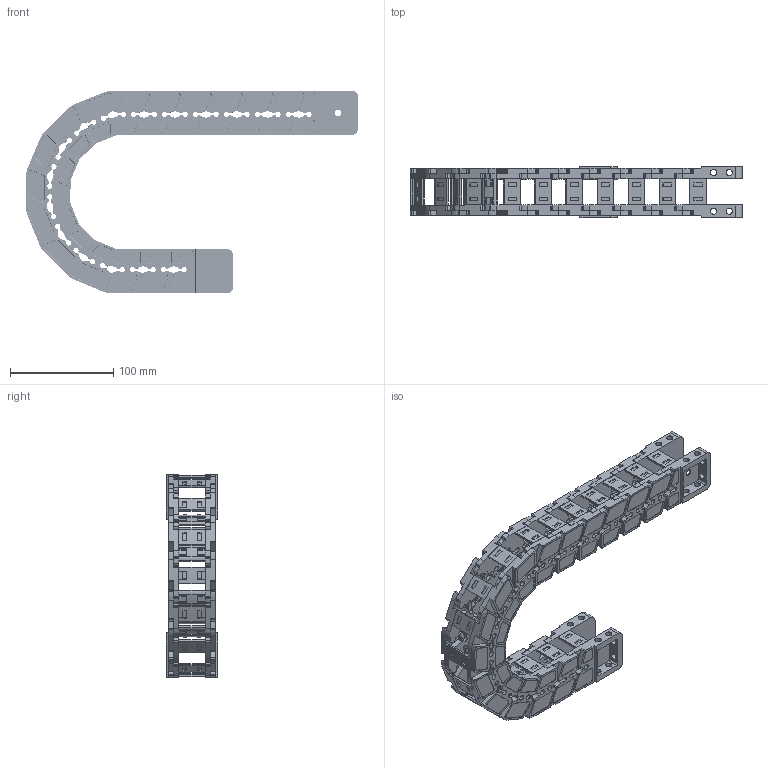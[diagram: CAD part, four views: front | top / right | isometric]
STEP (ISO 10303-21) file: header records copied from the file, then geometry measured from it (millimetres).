
FILE_DESCRIPTION((''),'2;1');
FILE_NAME('JY-35X25-R75_ASM','2025-01-05T18:57:45',('admin'),(''),'CREO PARAMETRIC BY PTC INC, 2021023','CREO PARAMETRIC BY PTC INC, 2021023','');
FILE_SCHEMA(('CONFIG_CONTROL_DESIGN'));
Length unit declared in the file: millimetre
Products named in the file (11): 35XL-L; YP; 35XL-R; ASM0001_ASM; 35-LTT-A-L; 35-LTT-A-R; 35XL-LTT-A_ASM; 35-LTT-B-L; 35-LTT-B-R; 35XL-LTT-B_ASM; JY-35X25-R75_ASM
Assembly tree (29 placements, depth 3):
  JY-35X25-R75_ASM
    ASM0001_ASM  x15
      35XL-L
      YP
      35XL-R
    35XL-LTT-A_ASM
      35-LTT-A-L
      YP  x2
      35-LTT-A-R
    35XL-LTT-B_ASM
      35-LTT-B-L
      YP  x2
      35-LTT-B-R
Bounding box: 321.72 x 49.5 x 196.34 mm (x, y, z)
Volume: 412050.6 mm3; surface area: 238800.9 mm2
Topology: 68 solids, 68 shells, 5536 faces, 16584 edges, 11192 vertices
Faces by surface type: plane 3130, cylinder 1830, cone 352, extrusion 128, bspline 96
Entity records: 27842 total; most frequent: CARTESIAN_POINT 6162, ORIENTED_EDGE 4640, DIRECTION 4353, EDGE_CURVE 2320, VERTEX_POINT 1568, AXIS2_PLACEMENT_3D 1468, VECTOR 1417, LINE 1401
